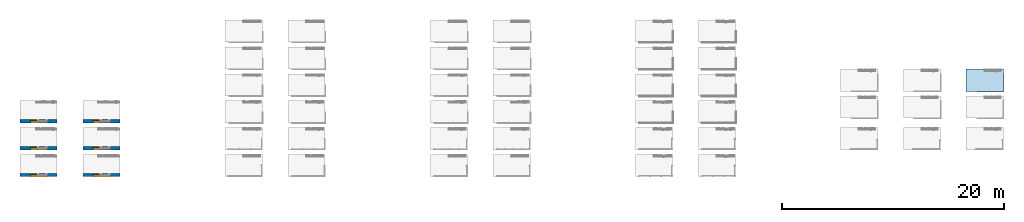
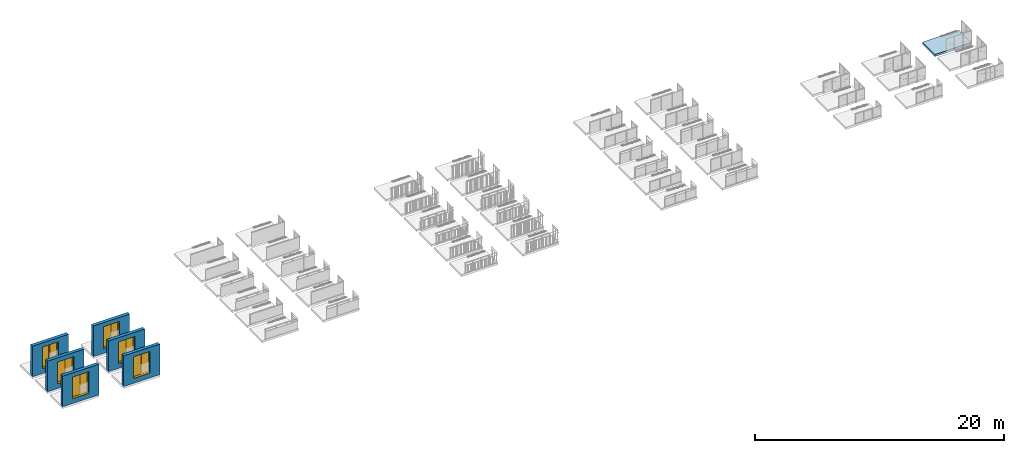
# One storey, part 2 of 8: 6 walls, 6 windows, 1 slab, 6 openings.
"""IFC2X3 building model written with IfcOpenShell, lengths in millimetres."""

from ifc_helpers import new_model, entity, si_unit, converted_unit, derived_unit, money_unit, direction, frame, origin_with_axes, origin_2d_with_axis, place, context, subcontext, project, spatial, polyline, rectangle, outline, extrude, open_shell, faceted_brep, surface_model, source, transform, mapped, material, layer, layer_set, layer_usage, type_object, element, fill, save


model = new_model("IFC2X3")

# Units and contexts
model_context = context("Model", 3, precision=1e-05, world=origin_with_axes(), true_north=direction((0.0, 1.0)))
body_context = subcontext(model_context, "Body", "Model", "MODEL_VIEW")
ifc_project = project(units=[si_unit("LENGTHUNIT", "METRE", prefix="MILLI"), si_unit("AREAUNIT", "SQUARE_METRE"), si_unit("VOLUMEUNIT", "CUBIC_METRE"), converted_unit("PLANEANGLEUNIT", "DEGREE", entity("IfcPlaneAngleMeasure", 0.0174532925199), si_unit("PLANEANGLEUNIT", "RADIAN"), dimensions=[0, 0, 0, 0, 0, 0, 0]), si_unit("SOLIDANGLEUNIT", "STERADIAN"), money_unit("USD"), converted_unit("TIMEUNIT", "Year", entity("IfcTimeMeasure", 31556926.0), si_unit("TIMEUNIT", "SECOND"), dimensions=[0, 0, 1, 0, 0, 0, 0]), si_unit("MASSUNIT", "GRAM", prefix="KILO"), si_unit("THERMODYNAMICTEMPERATUREUNIT", "DEGREE_CELSIUS"), si_unit("LUMINOUSINTENSITYUNIT", "LUMEN"), si_unit("ENERGYUNIT", "JOULE", prefix="MEGA"), derived_unit("THERMALCONDUCTANCEUNIT", [(si_unit("POWERUNIT", "WATT"), 1), (si_unit("LENGTHUNIT", "METRE"), -1), (si_unit("THERMODYNAMICTEMPERATUREUNIT", "KELVIN"), -1)]), derived_unit("SPECIFICHEATCAPACITYUNIT", [(si_unit("ENERGYUNIT", "JOULE"), 1), (si_unit("MASSUNIT", "GRAM", prefix="KILO"), -1), (si_unit("THERMODYNAMICTEMPERATUREUNIT", "KELVIN"), -1)]), derived_unit("MASSDENSITYUNIT", [(si_unit("MASSUNIT", "GRAM", prefix="KILO"), 1), (si_unit("VOLUMEUNIT", "CUBIC_METRE"), -1)])], contexts=[model_context])

# Site, building, storey
site_placement = place(None, origin_with_axes())
site = spatial("IfcSite", under=ifc_project, at=site_placement, Name="Site", CompositionType="ELEMENT")
building_placement = place(site_placement, origin_with_axes())
building = spatial("IfcBuilding", under=site, at=building_placement, Name="Building", CompositionType="ELEMENT")
storey_placement = place(building_placement, origin_with_axes())
storey = spatial("IfcBuildingStorey", under=building, at=storey_placement, Name="Ground Floor", CompositionType="ELEMENT", Elevation=0.0)

# Slab
ifc_material_1 = material(Name="GENERIC - EXTERNAL CLADDING")
ifc_layer_1 = layer(ifc_material_1, 200.0, ventilated="UNKNOWN")
ifc_layer_set_1 = layer_set([ifc_layer_1], Name="GENERIC - EXTERNAL CLADDING 200")
ifc_layer_usage_1 = layer_usage(ifc_layer_set_1, "AXIS3", "NEGATIVE", 200.0)
slab_type = type_object("IfcSlabType", Name="GENERIC - EXTERNAL CLADDING 200", PredefinedType="FLOOR")
slab_placement = place(storey_placement, frame((56849.880558, 11399.6699494, 0.0), z_axis=(0.0, 0.0, 1.0), x_axis=(1.0, 0.0, 0.0)))
element("IfcSlab", 1, at=slab_placement, inside=storey, type_object=slab_type, material=ifc_layer_usage_1, Name="SLA - 001", PredefinedType="FLOOR", context=body_context, shape_type="SweptSolid", body=[
    extrude(outline(polyline([(0.0, 0.0), (0.0, -2000.0), (3355.32371751, -2000.0), (3355.32371751, 0.0), (0.0, 0.0)])), frame((0.0, 0.0, -200.0), z_axis=(0.0, 0.0, 1.0), x_axis=(1.0, 0.0, 0.0)), (0.0, 0.0, 1.0), 200.0),
])

# Wall, opening, window
ifc_material_2 = material(Name="GENERIC - STRUCTURAL")
ifc_layer_2 = layer(ifc_material_2, 300.0, ventilated="UNKNOWN")
ifc_layer_set_2 = layer_set([ifc_layer_2], Name="GENERIC - STRUCTURAL 300")
ifc_layer_usage_2 = layer_usage(ifc_layer_set_2, "AXIS2", "POSITIVE", 0.0)
wall_type = type_object("IfcWallType", Name="GENERIC - STRUCTURAL 300", PredefinedType="NOTDEFINED")
wall_1_placement = place(storey_placement, frame((-22734.8319098, 1707.32727174, 0.0), z_axis=(0.0, 0.0, 1.0), x_axis=(1.0, 0.0, 0.0)))
wall_1 = element("IfcWallStandardCase", 2, at=wall_1_placement, inside=storey, type_object=wall_type, material=ifc_layer_usage_2, Name="SW - 002", context=body_context, shape_type="SweptSolid", body=[
    extrude(outline(polyline([(0.0, 0.0), (3355.32371751, 0.0), (3355.32371751, 300.0), (0.0, 300.0), (0.0, 0.0)])), origin_with_axes(), (0.0, 0.0, 1.0), 3000.0),
])
opening_1_placement = place(wall_1_placement, frame((1677.66185875, 0.0, 500.0), z_axis=(0.0, 0.0, 1.0), x_axis=(1.0, 0.0, 0.0)))
opening_1 = element("IfcOpeningElement", 3, at=opening_1_placement, cuts=wall_1, Name="WD - 002", context=body_context, shape_type="SweptSolid", body=[
    extrude(rectangle(XDim=1500.0, YDim=2100.0, at=origin_2d_with_axis()), frame((0.0, 150.0, 1050.0), z_axis=(0.0, 1.0, 0.0), x_axis=(1.0, 0.0, 0.0)), (0.0, 0.0, -1.0), 450.0),
    extrude(rectangle(XDim=1500.0, YDim=2100.0, at=origin_2d_with_axis()), frame((0.0, 150.0, 1050.0), z_axis=(0.0, -1.0, 0.0), x_axis=(1.0, 0.0, 0.0)), (0.0, 0.0, -1.0), 450.0),
])
window_style = type_object("IfcWindowStyle", Name="Double Window 22", ConstructionType="NOTDEFINED", OperationType="DOUBLE_PANEL_VERTICAL", ParameterTakesPrecedence=False, Sizeable=False)
shared_shape = source(origin_with_axes(), body_context, "Body", "SurfaceModel", [
    faceted_brep([(-750.0, -50.0, 5.0), (-750.0, -200.0, 5.0), (-750.0, -200.0, 22.1388331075), (-750.0, -50.0, 30.0), (750.0, -50.0, 5.0), (750.0, -200.0, 5.0), (750.0, -230.0, 5.0), (-750.0, -230.0, 5.0), (-750.0, -230.0, 20.5665997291), (750.0, -230.0, 20.5665997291), (750.0, -200.0, 22.1388331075), (750.0, -50.0, 30.0)], [[[0, 1, 2, 3]], [[0, 4, 5, 6, 7, 1]], [[1, 7, 8, 2]], [[3, 2, 8, 9, 10, 11]], [[4, 0, 3, 11]], [[5, 4, 11, 10]], [[6, 5, 10, 9]], [[7, 6, 9, 8]]]),
    faceted_brep([(-750.0, -50.0, 0.0), (-750.0, -200.0, 0.0), (-750.0, -200.0, 5.0), (-750.0, -50.0, 5.0), (750.0, -50.0, 0.0), (750.0, -200.0, 0.0), (750.0, -200.0, 5.0), (750.0, -50.0, 5.0)], [[[0, 1, 2, 3]], [[0, 4, 5, 1]], [[1, 5, 6, 2]], [[3, 2, 6, 7]], [[4, 0, 3, 7]], [[5, 4, 7, 6]]]),
    faceted_brep([(700.0, -25.0, 2050.0), (700.0, -50.0, 2050.0), (750.0, -50.0, 2050.0), (750.0, 0.0, 2050.0), (725.0, 0.0, 2050.0), (725.0, -25.0, 2050.0), (700.0, -25.0, 50.0), (700.0, -50.0, 50.0), (750.0, -50.0, 50.0), (750.0, 0.0, 50.0), (725.0, 0.0, 50.0), (725.0, -25.0, 50.0)], [[[0, 1, 2, 3, 4, 5]], [[6, 7, 1, 0]], [[8, 2, 1, 7]], [[9, 3, 2, 8]], [[4, 3, 9, 10]], [[10, 11, 5, 4]], [[5, 11, 6, 0]], [[11, 10, 9, 8, 7, 6]]]),
    faceted_brep([(0.0, 0.0, 2050.0), (-75.0, 0.0, 2050.0), (-75.0, -50.0, 2050.0), (25.0, -50.0, 2050.0), (25.0, -25.0, 2050.0), (0.0, -25.0, 2050.0), (0.0, 0.0, 50.0), (-75.0, 0.0, 50.0), (-75.0, -50.0, 50.0), (25.0, -50.0, 50.0), (25.0, -25.0, 50.0), (0.0, -25.0, 50.0)], [[[0, 1, 2, 3, 4, 5]], [[6, 7, 1, 0]], [[1, 7, 8, 2]], [[9, 3, 2, 8]], [[4, 3, 9, 10]], [[10, 11, 5, 4]], [[5, 11, 6, 0]], [[11, 10, 9, 8, 7, 6]]]),
    faceted_brep([(700.0, -25.0, 50.0), (700.0, -50.0, 50.0), (750.0, -50.0, 50.0), (750.0, 0.0, 50.0), (725.0, 0.0, 50.0), (725.0, -25.0, 50.0), (25.0, -25.0, 50.0), (25.0, -50.0, 50.0), (-750.0, -50.0, 50.0), (-750.0, -50.0, 0.0), (750.0, -50.0, 0.0), (-75.0, -50.0, 50.0), (-700.0, -50.0, 50.0), (750.0, 0.0, 0.0), (0.0, 0.0, 25.0), (725.0, 0.0, 25.0), (-750.0, 0.0, 0.0), (-750.0, 0.0, 50.0), (-700.0, 0.0, 50.0), (-75.0, 0.0, 50.0), (0.0, 0.0, 50.0), (725.0, -25.0, 25.0), (0.0, -25.0, 25.0), (0.0, -25.0, 50.0)], [[[0, 1, 2, 3, 4, 5]], [[6, 7, 1, 0]], [[8, 9, 10, 2, 1, 7, 11, 12]], [[13, 3, 2, 10]], [[14, 15, 4, 3, 13, 16, 17, 18, 19, 20]], [[15, 21, 5, 4]], [[5, 21, 22, 23, 6, 0]], [[23, 20, 19, 11, 7, 6]], [[17, 16, 9, 8]], [[16, 13, 10, 9]], [[19, 18, 12, 11]], [[18, 17, 8, 12]], [[14, 22, 21, 15]], [[23, 22, 14, 20]]]),
    faceted_brep([(0.0, 0.0, 2050.0), (-75.0, 0.0, 2050.0), (-700.0, 0.0, 2050.0), (-750.0, 0.0, 2050.0), (-750.0, 0.0, 2100.0), (750.0, 0.0, 2100.0), (750.0, 0.0, 2050.0), (725.0, 0.0, 2050.0), (725.0, 0.0, 2075.0), (0.0, 0.0, 2075.0), (0.0, -25.0, 2050.0), (25.0, -25.0, 2050.0), (25.0, -50.0, 2050.0), (-75.0, -50.0, 2050.0), (-700.0, -50.0, 2050.0), (-750.0, -50.0, 2050.0), (-750.0, -50.0, 2100.0), (750.0, -50.0, 2100.0), (750.0, -50.0, 2050.0), (725.0, -25.0, 2050.0), (700.0, -50.0, 2050.0), (700.0, -25.0, 2050.0), (725.0, -25.0, 2075.0), (0.0, -25.0, 2075.0)], [[[0, 1, 2, 3, 4, 5, 6, 7, 8, 9]], [[10, 11, 12, 13, 1, 0]], [[2, 1, 13, 14]], [[3, 2, 14, 15]], [[4, 3, 15, 16]], [[5, 4, 16, 17]], [[6, 5, 17, 18]], [[19, 7, 6, 18, 20, 21]], [[7, 19, 22, 8]], [[8, 22, 23, 9]], [[9, 23, 10, 0]], [[21, 11, 10, 23, 22, 19]], [[21, 20, 12, 11]], [[12, 20, 18, 17, 16, 15, 14, 13]]]),
    faceted_brep([(-700.0, -50.0, 2050.0), (-700.0, 0.0, 2050.0), (-750.0, 0.0, 2050.0), (-750.0, -50.0, 2050.0), (-700.0, -50.0, 50.0), (-700.0, 0.0, 50.0), (-750.0, 0.0, 50.0), (-750.0, -50.0, 50.0)], [[[0, 1, 2, 3]], [[4, 5, 1, 0]], [[1, 5, 6, 2]], [[3, 2, 6, 7]], [[0, 3, 7, 4]], [[7, 6, 5, 4]]]),
    surface_model("IfcShellBasedSurfaceModel", [(-700.0, -35.0, 50.0), (-75.0, -35.0, 50.0), (-75.0, -35.0, 2050.0), (-700.0, -35.0, 2050.0)], [open_shell([[[0, 1, 2, 3]]])]),
    surface_model("IfcShellBasedSurfaceModel", [(-700.0, -15.0, 50.0), (-700.0, -15.0, 2050.0), (-75.0, -15.0, 2050.0), (-75.0, -15.0, 50.0)], [open_shell([[[0, 1, 2, 3]]])]),
    faceted_brep([(50.0, -25.0, 2025.0), (50.0, 25.0, 2025.0), (0.0, 25.0, 2025.0), (0.0, -25.0, 2025.0), (50.0, -25.0, 75.0), (50.0, 25.0, 75.0), (0.0, 25.0, 75.0), (0.0, -25.0, 75.0)], [[[0, 1, 2, 3]], [[4, 5, 1, 0]], [[1, 5, 6, 2]], [[3, 2, 6, 7]], [[0, 3, 7, 4]], [[7, 6, 5, 4]]]),
    faceted_brep([(675.0, -25.0, 75.0), (675.0, 25.0, 75.0), (725.0, 25.0, 75.0), (725.0, -25.0, 75.0), (675.0, -25.0, 2025.0), (675.0, 25.0, 2025.0), (725.0, 25.0, 2025.0), (725.0, -25.0, 2025.0)], [[[0, 1, 2, 3]], [[4, 5, 1, 0]], [[1, 5, 6, 2]], [[3, 2, 6, 7]], [[0, 3, 7, 4]], [[7, 6, 5, 4]]]),
    faceted_brep([(725.0, -25.0, 25.0), (725.0, 25.0, 25.0), (725.0, 25.0, 75.0), (725.0, -25.0, 75.0), (0.0, -25.0, 25.0), (0.0, 25.0, 25.0), (0.0, 25.0, 75.0), (50.0, 25.0, 75.0), (675.0, 25.0, 75.0), (675.0, -25.0, 75.0), (50.0, -25.0, 75.0), (0.0, -25.0, 75.0)], [[[0, 1, 2, 3]], [[4, 5, 1, 0]], [[1, 5, 6, 7, 8, 2]], [[3, 2, 8, 9]], [[0, 3, 9, 10, 11, 4]], [[11, 6, 5, 4]], [[10, 7, 6, 11]], [[9, 8, 7, 10]]]),
    faceted_brep([(0.0, -25.0, 2075.0), (0.0, 25.0, 2075.0), (0.0, 25.0, 2025.0), (0.0, -25.0, 2025.0), (725.0, -25.0, 2075.0), (725.0, 25.0, 2075.0), (725.0, 25.0, 2025.0), (675.0, 25.0, 2025.0), (50.0, 25.0, 2025.0), (50.0, -25.0, 2025.0), (675.0, -25.0, 2025.0), (725.0, -25.0, 2025.0)], [[[0, 1, 2, 3]], [[4, 5, 1, 0]], [[1, 5, 6, 7, 8, 2]], [[3, 2, 8, 9]], [[0, 3, 9, 10, 11, 4]], [[11, 6, 5, 4]], [[10, 7, 6, 11]], [[9, 8, 7, 10]]]),
    surface_model("IfcShellBasedSurfaceModel", [(50.0, -10.0, 75.0), (675.0, -10.0, 75.0), (675.0, -10.0, 2025.0), (50.0, -10.0, 2025.0)], [open_shell([[[0, 1, 2, 3]]])]),
    surface_model("IfcShellBasedSurfaceModel", [(50.0, 10.0, 75.0), (50.0, 10.0, 2025.0), (675.0, 10.0, 2025.0), (675.0, 10.0, 75.0)], [open_shell([[[0, 1, 2, 3]]])]),
])
window_1_placement = place(opening_1_placement, frame((-750.0, 0.0, 0.0), z_axis=(0.0, 0.0, 1.0), x_axis=(1.0, 0.0, 0.0)))
window_1 = element("IfcWindow", 4, at=window_1_placement, inside=storey, type_object=window_style, Name="WD - 002", OverallHeight=2100.0, OverallWidth=1500.0, context=body_context, shape_type="MappedRepresentation", body=[
    mapped(shared_shape, transform((750.0, 200.0, 0.0))),
])
fill(opening_1, window_1)

ifc_layer_usage_3 = layer_usage(ifc_layer_set_2, "AXIS2", "POSITIVE", 0.0)
wall_2_placement = place(storey_placement, frame((-28389.5732269, 1707.32727174, 0.0), z_axis=(0.0, 0.0, 1.0), x_axis=(1.0, 0.0, 0.0)))
wall_2 = element("IfcWallStandardCase", 5, at=wall_2_placement, inside=storey, type_object=wall_type, material=ifc_layer_usage_3, Name="SW - 002", context=body_context, shape_type="SweptSolid", body=[
    extrude(outline(polyline([(0.0, 0.0), (3355.32371751, 0.0), (3355.32371751, 300.0), (0.0, 300.0), (0.0, 0.0)])), origin_with_axes(), (0.0, 0.0, 1.0), 3000.0),
])
opening_2_placement = place(wall_2_placement, frame((1677.66185875, 0.0, 500.0), z_axis=(0.0, 0.0, 1.0), x_axis=(1.0, 0.0, 0.0)))
opening_2 = element("IfcOpeningElement", 6, at=opening_2_placement, cuts=wall_2, Name="WD - 002", context=body_context, shape_type="SweptSolid", body=[
    extrude(rectangle(XDim=1500.0, YDim=2100.0, at=origin_2d_with_axis()), frame((0.0, 150.0, 1050.0), z_axis=(0.0, 1.0, 0.0), x_axis=(1.0, 0.0, 0.0)), (0.0, 0.0, -1.0), 450.0),
    extrude(rectangle(XDim=1500.0, YDim=2100.0, at=origin_2d_with_axis()), frame((0.0, 150.0, 1050.0), z_axis=(0.0, -1.0, 0.0), x_axis=(1.0, 0.0, 0.0)), (0.0, 0.0, -1.0), 450.0),
])
window_2_placement = place(opening_2_placement, frame((-750.0, 0.0, 0.0), z_axis=(0.0, 0.0, 1.0), x_axis=(1.0, 0.0, 0.0)))
window_2 = element("IfcWindow", 7, at=window_2_placement, inside=storey, type_object=window_style, Name="WD - 002", OverallHeight=2100.0, OverallWidth=1500.0, context=body_context, shape_type="MappedRepresentation", body=[
    mapped(shared_shape, transform((750.0, 200.0, 0.0))),
])
fill(opening_2, window_2)

ifc_layer_usage_4 = layer_usage(ifc_layer_set_2, "AXIS2", "POSITIVE", 0.0)
wall_3_placement = place(storey_placement, frame((-22734.8319098, 4130.41294117, 0.0), z_axis=(0.0, 0.0, 1.0), x_axis=(1.0, 0.0, 0.0)))
wall_3 = element("IfcWallStandardCase", 8, at=wall_3_placement, inside=storey, type_object=wall_type, material=ifc_layer_usage_4, Name="SW - 002", context=body_context, shape_type="SweptSolid", body=[
    extrude(outline(polyline([(0.0, 0.0), (3355.32371751, 0.0), (3355.32371751, 300.0), (0.0, 300.0), (0.0, 0.0)])), origin_with_axes(), (0.0, 0.0, 1.0), 3000.0),
])
opening_3_placement = place(wall_3_placement, frame((1677.66185875, 0.0, 500.0), z_axis=(0.0, 0.0, 1.0), x_axis=(1.0, 0.0, 0.0)))
opening_3 = element("IfcOpeningElement", 9, at=opening_3_placement, cuts=wall_3, Name="WD - 002", context=body_context, shape_type="SweptSolid", body=[
    extrude(rectangle(XDim=1500.0, YDim=2100.0, at=origin_2d_with_axis()), frame((0.0, 150.0, 1050.0), z_axis=(0.0, 1.0, 0.0), x_axis=(1.0, 0.0, 0.0)), (0.0, 0.0, -1.0), 450.0),
    extrude(rectangle(XDim=1500.0, YDim=2100.0, at=origin_2d_with_axis()), frame((0.0, 150.0, 1050.0), z_axis=(0.0, -1.0, 0.0), x_axis=(1.0, 0.0, 0.0)), (0.0, 0.0, -1.0), 450.0),
])
window_3_placement = place(opening_3_placement, frame((-750.0, 0.0, 0.0), z_axis=(0.0, 0.0, 1.0), x_axis=(1.0, 0.0, 0.0)))
window_3 = element("IfcWindow", 10, at=window_3_placement, inside=storey, type_object=window_style, Name="WD - 002", OverallHeight=2100.0, OverallWidth=1500.0, context=body_context, shape_type="MappedRepresentation", body=[
    mapped(shared_shape, transform((750.0, 200.0, 0.0))),
])
fill(opening_3, window_3)

ifc_layer_usage_5 = layer_usage(ifc_layer_set_2, "AXIS2", "POSITIVE", 0.0)
wall_4_placement = place(storey_placement, frame((-28389.5732269, 4130.41294117, 0.0), z_axis=(0.0, 0.0, 1.0), x_axis=(1.0, 0.0, 0.0)))
wall_4 = element("IfcWallStandardCase", 11, at=wall_4_placement, inside=storey, type_object=wall_type, material=ifc_layer_usage_5, Name="SW - 002", context=body_context, shape_type="SweptSolid", body=[
    extrude(outline(polyline([(0.0, 0.0), (3355.32371751, 0.0), (3355.32371751, 300.0), (0.0, 300.0), (0.0, 0.0)])), origin_with_axes(), (0.0, 0.0, 1.0), 3000.0),
])
opening_4_placement = place(wall_4_placement, frame((1677.66185875, 0.0, 500.0), z_axis=(0.0, 0.0, 1.0), x_axis=(1.0, 0.0, 0.0)))
opening_4 = element("IfcOpeningElement", 12, at=opening_4_placement, cuts=wall_4, Name="WD - 002", context=body_context, shape_type="SweptSolid", body=[
    extrude(rectangle(XDim=1500.0, YDim=2100.0, at=origin_2d_with_axis()), frame((0.0, 150.0, 1050.0), z_axis=(0.0, 1.0, 0.0), x_axis=(1.0, 0.0, 0.0)), (0.0, 0.0, -1.0), 450.0),
    extrude(rectangle(XDim=1500.0, YDim=2100.0, at=origin_2d_with_axis()), frame((0.0, 150.0, 1050.0), z_axis=(0.0, -1.0, 0.0), x_axis=(1.0, 0.0, 0.0)), (0.0, 0.0, -1.0), 450.0),
])
window_4_placement = place(opening_4_placement, frame((-750.0, 0.0, 0.0), z_axis=(0.0, 0.0, 1.0), x_axis=(1.0, 0.0, 0.0)))
window_4 = element("IfcWindow", 13, at=window_4_placement, inside=storey, type_object=window_style, Name="WD - 002", OverallHeight=2100.0, OverallWidth=1500.0, context=body_context, shape_type="MappedRepresentation", body=[
    mapped(shared_shape, transform((750.0, 200.0, 0.0))),
])
fill(opening_4, window_4)

ifc_layer_usage_6 = layer_usage(ifc_layer_set_2, "AXIS2", "POSITIVE", 0.0)
wall_5_placement = place(storey_placement, frame((-22734.8319098, 6553.49861059, 0.0), z_axis=(0.0, 0.0, 1.0), x_axis=(1.0, 0.0, 0.0)))
wall_5 = element("IfcWallStandardCase", 14, at=wall_5_placement, inside=storey, type_object=wall_type, material=ifc_layer_usage_6, Name="SW - 002", context=body_context, shape_type="SweptSolid", body=[
    extrude(outline(polyline([(0.0, 0.0), (3355.32371751, 0.0), (3355.32371751, 300.0), (0.0, 300.0), (0.0, 0.0)])), origin_with_axes(), (0.0, 0.0, 1.0), 3000.0),
])
opening_5_placement = place(wall_5_placement, frame((1677.66185875, 0.0, 500.0), z_axis=(0.0, 0.0, 1.0), x_axis=(1.0, 0.0, 0.0)))
opening_5 = element("IfcOpeningElement", 15, at=opening_5_placement, cuts=wall_5, Name="WD - 002", context=body_context, shape_type="SweptSolid", body=[
    extrude(rectangle(XDim=1500.0, YDim=2100.0, at=origin_2d_with_axis()), frame((0.0, 150.0, 1050.0), z_axis=(0.0, 1.0, 0.0), x_axis=(1.0, 0.0, 0.0)), (0.0, 0.0, -1.0), 450.0),
    extrude(rectangle(XDim=1500.0, YDim=2100.0, at=origin_2d_with_axis()), frame((0.0, 150.0, 1050.0), z_axis=(0.0, -1.0, 0.0), x_axis=(1.0, 0.0, 0.0)), (0.0, 0.0, -1.0), 450.0),
])
window_5_placement = place(opening_5_placement, frame((-750.0, 0.0, 0.0), z_axis=(0.0, 0.0, 1.0), x_axis=(1.0, 0.0, 0.0)))
window_5 = element("IfcWindow", 16, at=window_5_placement, inside=storey, type_object=window_style, Name="WD - 002", OverallHeight=2100.0, OverallWidth=1500.0, context=body_context, shape_type="MappedRepresentation", body=[
    mapped(shared_shape, transform((750.0, 200.0, 0.0))),
])
fill(opening_5, window_5)

ifc_layer_usage_7 = layer_usage(ifc_layer_set_2, "AXIS2", "POSITIVE", 0.0)
wall_6_placement = place(storey_placement, frame((-28389.5732269, 6553.49861059, 0.0), z_axis=(0.0, 0.0, 1.0), x_axis=(1.0, 0.0, 0.0)))
wall_6 = element("IfcWallStandardCase", 17, at=wall_6_placement, inside=storey, type_object=wall_type, material=ifc_layer_usage_7, Name="SW - 002", context=body_context, shape_type="SweptSolid", body=[
    extrude(outline(polyline([(0.0, 0.0), (3355.32371751, 0.0), (3355.32371751, 300.0), (0.0, 300.0), (0.0, 0.0)])), origin_with_axes(), (0.0, 0.0, 1.0), 3000.0),
])
opening_6_placement = place(wall_6_placement, frame((1677.66185875, 0.0, 500.0), z_axis=(0.0, 0.0, 1.0), x_axis=(1.0, 0.0, 0.0)))
opening_6 = element("IfcOpeningElement", 18, at=opening_6_placement, cuts=wall_6, Name="WD - 002", context=body_context, shape_type="SweptSolid", body=[
    extrude(rectangle(XDim=1500.0, YDim=2100.0, at=origin_2d_with_axis()), frame((0.0, 150.0, 1050.0), z_axis=(0.0, 1.0, 0.0), x_axis=(1.0, 0.0, 0.0)), (0.0, 0.0, -1.0), 450.0),
    extrude(rectangle(XDim=1500.0, YDim=2100.0, at=origin_2d_with_axis()), frame((0.0, 150.0, 1050.0), z_axis=(0.0, -1.0, 0.0), x_axis=(1.0, 0.0, 0.0)), (0.0, 0.0, -1.0), 450.0),
])
window_6_placement = place(opening_6_placement, frame((-750.0, 0.0, 0.0), z_axis=(0.0, 0.0, 1.0), x_axis=(1.0, 0.0, 0.0)))
window_6 = element("IfcWindow", 19, at=window_6_placement, inside=storey, type_object=window_style, Name="WD - 002", OverallHeight=2100.0, OverallWidth=1500.0, context=body_context, shape_type="MappedRepresentation", body=[
    mapped(shared_shape, transform((750.0, 200.0, 0.0))),
])
fill(opening_6, window_6)

save(model, "model.ifc")
